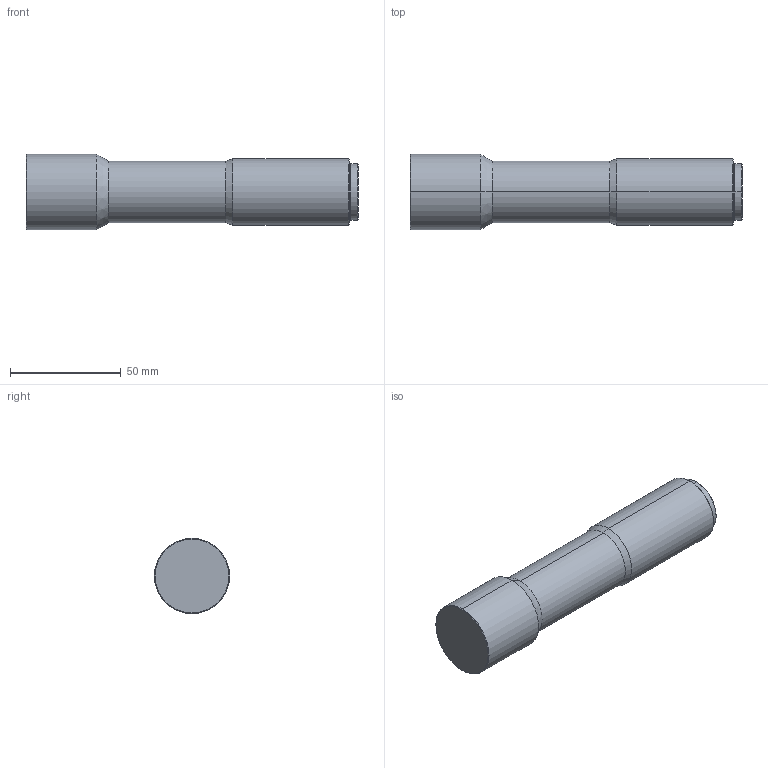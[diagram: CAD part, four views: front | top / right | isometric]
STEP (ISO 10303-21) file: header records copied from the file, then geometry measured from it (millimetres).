
FILE_DESCRIPTION (( 'STEP AP203' ), '1' );
FILE_NAME ('WWK13-98-111 STEPͼ.STEP', '2019-10-29T06:42:44', ( '' ), ( '' ), 'SwSTEP 2.0', 'SolidWorks 2014', '' );
FILE_SCHEMA (( 'CONFIG_CONTROL_DESIGN' ));
Length unit declared in the file: millimetre
Products named in the file (1): WWK13-98-111 STEPͼ
Bounding box: 150.1 x 34 x 34 mm (x, y, z)
Volume: 106960.1 mm3; surface area: 15896.6 mm2
Topology: 1 solids, 1 shells, 24 faces, 46 edges, 26 vertices
Faces by surface type: cone 10, cylinder 10, plane 4
Entity records: 681 total; most frequent: DIRECTION 122, CARTESIAN_POINT 97, ORIENTED_EDGE 92, AXIS2_PLACEMENT_3D 51, EDGE_CURVE 46, CIRCLE 26, VERTEX_POINT 26, EDGE_LOOP 26
